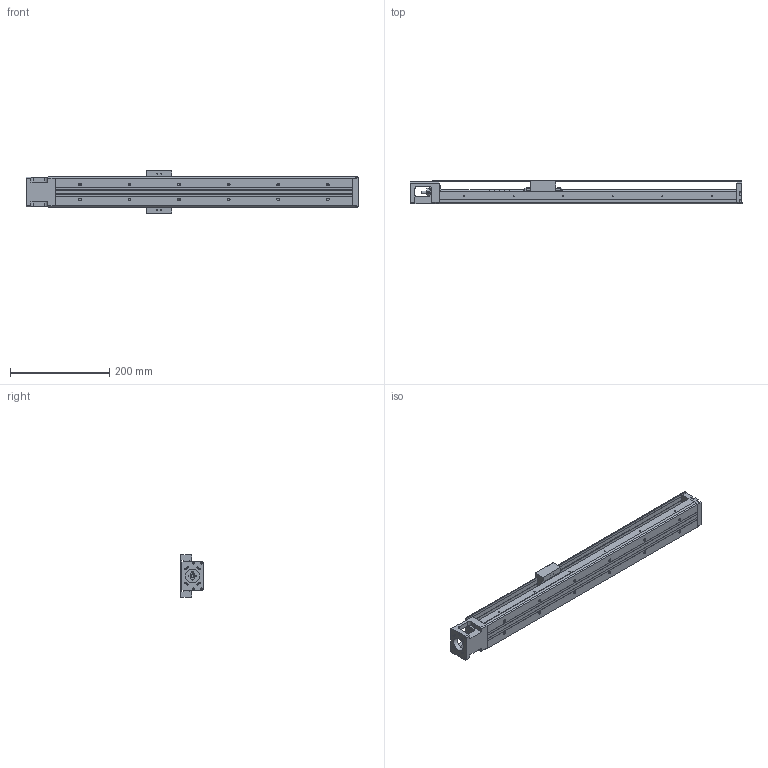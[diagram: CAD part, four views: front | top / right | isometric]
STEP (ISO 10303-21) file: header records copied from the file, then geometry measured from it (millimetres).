
FILE_DESCRIPTION(/* description */ (''),/* implementation_level */ '2;1');
FILE_NAME(/* name */ '33L-600C.stp',/* time_stamp */ '2016-12-20T13:32:55+08:00',/* author */ (''),/* organization */ (''),/* preprocessor_version */ 'ST-DEVELOPER v11',/* originating_system */ 'SIEMENS UGS NX 6.0',/* authorisation */ '');
FILE_SCHEMA (('AUTOMOTIVE_DESIGN { 1 0 10303 214 1 1 1 1 }'));
Length unit declared in the file: millimetre
Products named in the file (1): model4
Bounding box: 670 x 47.95 x 86 mm (x, y, z)
Volume: 828366.7 mm3; surface area: 296290.9 mm2
Topology: 7 solids, 16 shells, 769 faces, 1941 edges, 1285 vertices
Faces by surface type: plane 453, cylinder 229, bspline 31, cone 24, extrusion 21, torus 9, revolution 2
Full cylindrical faces by diameter (mm): 1.6 x6, 1.65 x4, 2.15 x6, 2.42 x4, 2.45 x8, 2.5 x22, 3 x3, 3.2 x4, 3.3 x4, 3.4 x3, 3.5 x10, 3.969 x1, 4 x6, 4.001 x1, 4.135 x4, 4.2 x4, 5.5 x12, 6 x5, 7.6 x1, 8 x5, 9.5 x12, 10.72 x3, 11.8 x2, 12 x6, 12.8 x1, 13 x2, 14 x1, 17.38 x3, 21.5 x1, 22 x2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
Entity records: 38383 total; most frequent: CARTESIAN_POINT 16851, DIRECTION 3494, ORIENTED_EDGE 3342, EDGE_CURVE 1671, AXIS2_PLACEMENT_3D 1250, VERTEX_POINT 1197, EDGE_LOOP 1110, VECTOR 992
